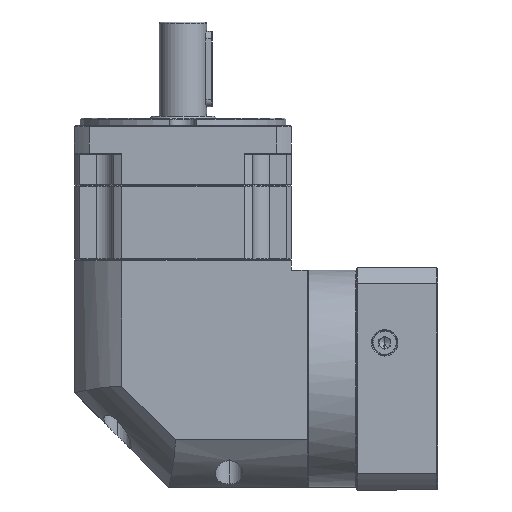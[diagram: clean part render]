
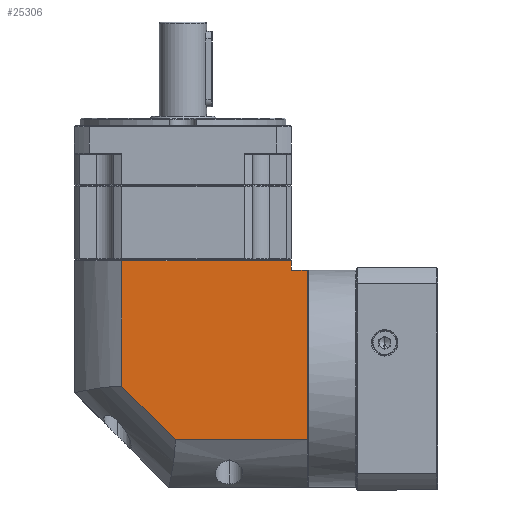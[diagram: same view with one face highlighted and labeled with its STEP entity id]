
A CAD part, left-side view. The second image highlights one B-rep face of the part: STEP entity #25306.
In plain terms, the highlighted planar face has unit normal (-1, 0, 0).
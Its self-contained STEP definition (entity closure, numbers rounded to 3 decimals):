
#6058 = AXIS2_PLACEMENT_3D ( 'NONE', #6738, #100569, #20220 ) ;
#6738 = CARTESIAN_POINT ( 'NONE',  ( -296.473, 36.578, 41.375 ) ) ;
#6776 = CARTESIAN_POINT ( 'NONE',  ( -296.473, -86.822, -60.025 ) ) ;
#6968 = VERTEX_POINT ( 'NONE', #75785 ) ;
#7137 = ORIENTED_EDGE ( 'NONE', *, *, #137176, .T. ) ;
#8964 = CARTESIAN_POINT ( 'NONE',  ( -296.473, -78.422, 29.875 ) ) ;
#10481 = ORIENTED_EDGE ( 'NONE', *, *, #92060, .F. ) ;
#11902 = ORIENTED_EDGE ( 'NONE', *, *, #168683, .F. ) ;
#13482 = CARTESIAN_POINT ( 'NONE',  ( -296.473, -86.822, 41.375 ) ) ;
#15611 = CARTESIAN_POINT ( 'NONE',  ( -296.473, -16.861, -60.025 ) ) ;
#16221 = VECTOR ( 'NONE', #133733, 1000. ) ;
#20220 = DIRECTION ( 'NONE',  ( 0., 1., 0. ) ) ;
#22094 = VERTEX_POINT ( 'NONE', #6776 ) ;
#24431 = ORIENTED_EDGE ( 'NONE', *, *, #97103, .F. ) ;
#25306 = ADVANCED_FACE ( 'NONE', ( #63967 ), #46603, .F. ) ;
#27428 = EDGE_CURVE ( 'NONE', #29735, #22094, #77798, .T. ) ;
#29090 = DIRECTION ( 'NONE',  ( 0., 0.707, 0.707 ) ) ;
#29735 = VERTEX_POINT ( 'NONE', #150553 ) ;
#30415 = VERTEX_POINT ( 'NONE', #93674 ) ;
#30668 = CARTESIAN_POINT ( 'NONE',  ( -296.473, -78.422, -85.125 ) ) ;
#32007 = LINE ( 'NONE', #30668, #99120 ) ;
#37932 = VECTOR ( 'NONE', #80402, 1000. ) ;
#46094 = VECTOR ( 'NONE', #116280, 1000. ) ;
#46603 = PLANE ( 'NONE',  #6058 ) ;
#50435 = VECTOR ( 'NONE', #131441, 1000. ) ;
#56576 = CARTESIAN_POINT ( 'NONE',  ( -296.473, 11.478, 34.875 ) ) ;
#58400 = VERTEX_POINT ( 'NONE', #148703 ) ;
#63763 = VECTOR ( 'NONE', #173898, 1000. ) ;
#63967 = FACE_OUTER_BOUND ( 'NONE', #82854, .T. ) ;
#67998 = LINE ( 'NONE', #160491, #63763 ) ;
#75785 = CARTESIAN_POINT ( 'NONE',  ( -296.473, -78.422, 34.875 ) ) ;
#77798 = LINE ( 'NONE', #13482, #37932 ) ;
#80402 = DIRECTION ( 'NONE',  ( 0., 0., -1. ) ) ;
#81103 = VECTOR ( 'NONE', #29090, 1000. ) ;
#82854 = EDGE_LOOP ( 'NONE', ( #11902, #24431, #150914, #129737, #87845, #7137, #10481 ) ) ;
#84606 = DIRECTION ( 'NONE',  ( 0., 0., 1. ) ) ;
#87204 = EDGE_CURVE ( 'NONE', #22094, #111117, #158981, .T. ) ;
#87845 = ORIENTED_EDGE ( 'NONE', *, *, #99459, .T. ) ;
#90826 = VERTEX_POINT ( 'NONE', #56576 ) ;
#92060 = EDGE_CURVE ( 'NONE', #90826, #6968, #67998, .T. ) ;
#93674 = CARTESIAN_POINT ( 'NONE',  ( -296.473, 11.478, -31.687 ) ) ;
#97103 = EDGE_CURVE ( 'NONE', #111117, #30415, #156701, .T. ) ;
#99120 = VECTOR ( 'NONE', #84606, 1000. ) ;
#99459 = EDGE_CURVE ( 'NONE', #29735, #58400, #153145, .T. ) ;
#100569 = DIRECTION ( 'NONE',  ( 1., 0., 0. ) ) ;
#103317 = CARTESIAN_POINT ( 'NONE',  ( -296.473, 11.478, 41.375 ) ) ;
#111117 = VERTEX_POINT ( 'NONE', #156537 ) ;
#116280 = DIRECTION ( 'NONE',  ( 0., 1., 0. ) ) ;
#129737 = ORIENTED_EDGE ( 'NONE', *, *, #27428, .F. ) ;
#131441 = DIRECTION ( 'NONE',  ( 0., 0., 1. ) ) ;
#133733 = DIRECTION ( 'NONE',  ( 0., 1., 0. ) ) ;
#137176 = EDGE_CURVE ( 'NONE', #58400, #6968, #32007, .T. ) ;
#148703 = CARTESIAN_POINT ( 'NONE',  ( -296.473, -78.422, 29.875 ) ) ;
#150553 = CARTESIAN_POINT ( 'NONE',  ( -296.473, -86.822, 29.875 ) ) ;
#150914 = ORIENTED_EDGE ( 'NONE', *, *, #87204, .F. ) ;
#153145 = LINE ( 'NONE', #8964, #46094 ) ;
#156537 = CARTESIAN_POINT ( 'NONE',  ( -296.473, -16.861, -60.025 ) ) ;
#156701 = LINE ( 'NONE', #15611, #81103 ) ;
#157530 = LINE ( 'NONE', #103317, #50435 ) ;
#158981 = LINE ( 'NONE', #173570, #16221 ) ;
#160491 = CARTESIAN_POINT ( 'NONE',  ( -296.473, 36.578, 34.875 ) ) ;
#168683 = EDGE_CURVE ( 'NONE', #30415, #90826, #157530, .T. ) ;
#173570 = CARTESIAN_POINT ( 'NONE',  ( -296.473, 36.578, -60.025 ) ) ;
#173898 = DIRECTION ( 'NONE',  ( 0., -1., 0. ) ) ;
